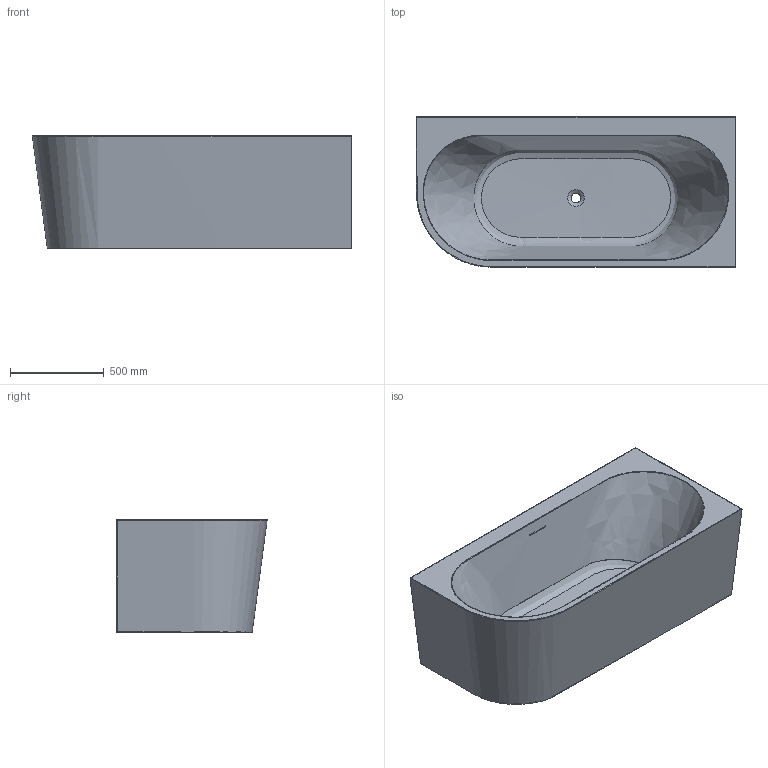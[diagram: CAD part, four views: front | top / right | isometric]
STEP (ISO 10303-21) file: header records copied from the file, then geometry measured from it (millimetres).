
FILE_DESCRIPTION(/* description */ (''),/* implementation_level */ '2;1');
FILE_NAME(/* name */ 'XA-193AL-1700.stp',/* time_stamp */ '2022-11-30T15:32:15+08:00',/* author */ (''),/* organization */ (''),/* preprocessor_version */ 'ST-DEVELOPER v16',/* originating_system */ 'SIEMENS PLM Software NX 10.0',/* authorisation */ '');
FILE_SCHEMA (('AP203_CONFIGURATION_CONTROLLED_3D_DESIGN_OF_MECHANICAL_PARTS_AND_ASSEMBLIES_MIM_LF { 1 0 10303 403 2 1 2}'));
Length unit declared in the file: millimetre
Products named in the file (1): Admi11DC8F1053yl
Bounding box: 1699.57 x 799.57 x 600 mm (x, y, z)
Volume: 27691265.3 mm3; surface area: 10592331 mm2
Topology: 1 solids, 1 shells, 32 faces, 74 edges, 48 vertices
Faces by surface type: plane 13, bspline 9, cylinder 6, cone 4
Full cylindrical faces by diameter (mm): 50 x1, 60 x1
Entity records: 6879 total; most frequent: CARTESIAN_POINT 6202, ORIENTED_EDGE 114, DIRECTION 94, EDGE_CURVE 57, EDGE_LOOP 49, VERTEX_POINT 42, AXIS2_PLACEMENT_3D 35, FACE_BOUND 33
